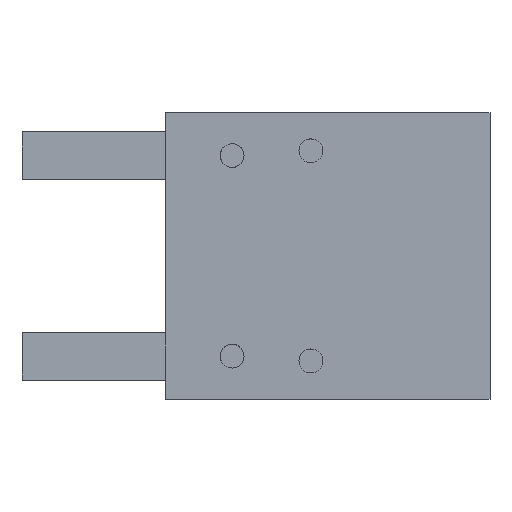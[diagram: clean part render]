
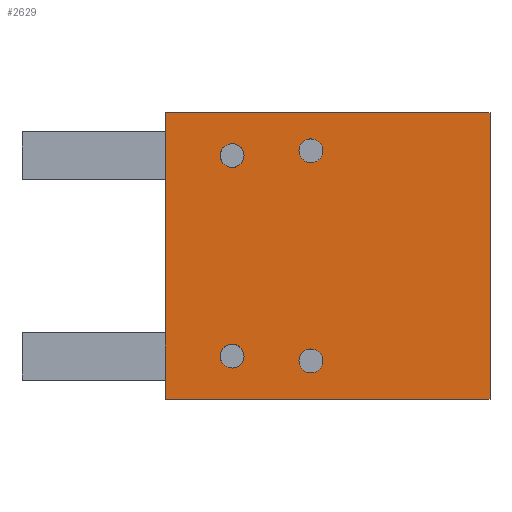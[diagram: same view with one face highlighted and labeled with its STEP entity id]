
A CAD part, top view. The second image highlights one B-rep face of the part: STEP entity #2629.
In plain terms, the highlighted planar face has unit normal (0, 0, 1).
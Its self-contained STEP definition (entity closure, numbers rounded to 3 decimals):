
#15 = AXIS2_PLACEMENT_3D ( 'NONE', #1223, #1216, #1202 ) ;
#17 = VERTEX_POINT ( 'NONE', #35 ) ;
#35 = CARTESIAN_POINT ( 'NONE',  ( -22.5, -21., 20. ) ) ;
#100 = ORIENTED_EDGE ( 'NONE', *, *, #1485, .F. ) ;
#105 = VECTOR ( 'NONE', #1352, 1000. ) ;
#133 = CARTESIAN_POINT ( 'NONE',  ( -20., -21., 20. ) ) ;
#175 = DIRECTION ( 'NONE',  ( 1., 0., 0. ) ) ;
#198 = DIRECTION ( 'NONE',  ( 0., 0., 1. ) ) ;
#206 = VECTOR ( 'NONE', #2286, 1000. ) ;
#213 = CARTESIAN_POINT ( 'NONE',  ( -3.5, 22., 20. ) ) ;
#242 = CIRCLE ( 'NONE', #3334, 2.5 ) ;
#265 = CARTESIAN_POINT ( 'NONE',  ( -34., 30., 20. ) ) ;
#358 = CARTESIAN_POINT ( 'NONE',  ( -6., -22., 20. ) ) ;
#408 = CARTESIAN_POINT ( 'NONE',  ( 34., 30., 20. ) ) ;
#434 = VERTEX_POINT ( 'NONE', #1083 ) ;
#468 = VERTEX_POINT ( 'NONE', #866 ) ;
#473 = CARTESIAN_POINT ( 'NONE',  ( -20., 21., 20. ) ) ;
#490 = CARTESIAN_POINT ( 'NONE',  ( -6., 22., 20. ) ) ;
#529 = DIRECTION ( 'NONE',  ( -1., 0., 0. ) ) ;
#574 = CARTESIAN_POINT ( 'NONE',  ( 34., 30., 20. ) ) ;
#605 = FACE_OUTER_BOUND ( 'NONE', #3739, .T. ) ;
#619 = VERTEX_POINT ( 'NONE', #358 ) ;
#666 = ORIENTED_EDGE ( 'NONE', *, *, #891, .F. ) ;
#866 = CARTESIAN_POINT ( 'NONE',  ( -34., -30., 20. ) ) ;
#891 = EDGE_CURVE ( 'NONE', #1519, #3458, #2263, .T. ) ;
#936 = EDGE_CURVE ( 'NONE', #1982, #619, #1193, .T. ) ;
#1065 = CARTESIAN_POINT ( 'NONE',  ( -1., -22., 20. ) ) ;
#1083 = CARTESIAN_POINT ( 'NONE',  ( 34., -30., 20. ) ) ;
#1167 = AXIS2_PLACEMENT_3D ( 'NONE', #3460, #3448, #3394 ) ;
#1192 = VERTEX_POINT ( 'NONE', #1876 ) ;
#1193 = CIRCLE ( 'NONE', #3291, 2.5 ) ;
#1202 = DIRECTION ( 'NONE',  ( 1., 0., 0. ) ) ;
#1216 = DIRECTION ( 'NONE',  ( 0., 0., 1. ) ) ;
#1223 = CARTESIAN_POINT ( 'NONE',  ( -3.5, 22., 20. ) ) ;
#1238 = ORIENTED_EDGE ( 'NONE', *, *, #3536, .F. ) ;
#1258 = EDGE_CURVE ( 'NONE', #1437, #2356, #2429, .T. ) ;
#1270 = EDGE_CURVE ( 'NONE', #434, #468, #1662, .T. ) ;
#1301 = CARTESIAN_POINT ( 'NONE',  ( 34., -30., 20. ) ) ;
#1349 = DIRECTION ( 'NONE',  ( 1., 0., 0. ) ) ;
#1352 = DIRECTION ( 'NONE',  ( -1., 0., 0. ) ) ;
#1371 = ORIENTED_EDGE ( 'NONE', *, *, #2701, .F. ) ;
#1381 = EDGE_CURVE ( 'NONE', #3214, #3647, #2079, .T. ) ;
#1384 = DIRECTION ( 'NONE',  ( 0., 0., 1. ) ) ;
#1390 = CIRCLE ( 'NONE', #1711, 2.5 ) ;
#1398 = CARTESIAN_POINT ( 'NONE',  ( -3.5, -22., 20. ) ) ;
#1401 = FACE_BOUND ( 'NONE', #1959, .T. ) ;
#1435 = EDGE_CURVE ( 'NONE', #2356, #1437, #1979, .T. ) ;
#1437 = VERTEX_POINT ( 'NONE', #490 ) ;
#1461 = ORIENTED_EDGE ( 'NONE', *, *, #1435, .F. ) ;
#1485 = EDGE_CURVE ( 'NONE', #17, #1192, #242, .T. ) ;
#1519 = VERTEX_POINT ( 'NONE', #1736 ) ;
#1530 = CARTESIAN_POINT ( 'NONE',  ( -34., 30., 20. ) ) ;
#1549 = CARTESIAN_POINT ( 'NONE',  ( 34., 30., 20. ) ) ;
#1634 = ORIENTED_EDGE ( 'NONE', *, *, #1270, .F. ) ;
#1662 = LINE ( 'NONE', #1301, #105 ) ;
#1670 = LINE ( 'NONE', #3156, #206 ) ;
#1711 = AXIS2_PLACEMENT_3D ( 'NONE', #2212, #2194, #2169 ) ;
#1720 = LINE ( 'NONE', #1530, #3276 ) ;
#1736 = CARTESIAN_POINT ( 'NONE',  ( -17.5, 21., 20. ) ) ;
#1777 = DIRECTION ( 'NONE',  ( 0., 1., 0. ) ) ;
#1787 = ORIENTED_EDGE ( 'NONE', *, *, #2550, .T. ) ;
#1850 = EDGE_LOOP ( 'NONE', ( #1461, #2985 ) ) ;
#1876 = CARTESIAN_POINT ( 'NONE',  ( -17.5, -21., 20. ) ) ;
#1887 = EDGE_LOOP ( 'NONE', ( #666, #3019 ) ) ;
#1927 = EDGE_LOOP ( 'NONE', ( #2604, #100 ) ) ;
#1959 = EDGE_LOOP ( 'NONE', ( #3048, #1238 ) ) ;
#1979 = CIRCLE ( 'NONE', #2751, 2.5 ) ;
#1982 = VERTEX_POINT ( 'NONE', #1065 ) ;
#2079 = LINE ( 'NONE', #574, #2753 ) ;
#2169 = DIRECTION ( 'NONE',  ( 1., 0., 0. ) ) ;
#2173 = FACE_BOUND ( 'NONE', #1927, .T. ) ;
#2194 = DIRECTION ( 'NONE',  ( 0., 0., 1. ) ) ;
#2212 = CARTESIAN_POINT ( 'NONE',  ( -20., -21., 20. ) ) ;
#2263 = CIRCLE ( 'NONE', #1167, 2.5 ) ;
#2271 = FACE_BOUND ( 'NONE', #1887, .T. ) ;
#2286 = DIRECTION ( 'NONE',  ( 0., 1., 0. ) ) ;
#2308 = PLANE ( 'NONE',  #2785 ) ;
#2356 = VERTEX_POINT ( 'NONE', #2538 ) ;
#2429 = CIRCLE ( 'NONE', #15, 2.5 ) ;
#2538 = CARTESIAN_POINT ( 'NONE',  ( -1., 22., 20. ) ) ;
#2550 = EDGE_CURVE ( 'NONE', #434, #3214, #1670, .T. ) ;
#2566 = CARTESIAN_POINT ( 'NONE',  ( -22.5, 21., 20. ) ) ;
#2604 = ORIENTED_EDGE ( 'NONE', *, *, #3472, .F. ) ;
#2629 = ADVANCED_FACE ( 'NONE', ( #2271, #2173, #3690, #1401, #605 ), #2308, .T. ) ;
#2661 = CIRCLE ( 'NONE', #3282, 2.5 ) ;
#2701 = EDGE_CURVE ( 'NONE', #468, #3647, #1720, .T. ) ;
#2722 = DIRECTION ( 'NONE',  ( 0., 0., 1. ) ) ;
#2751 = AXIS2_PLACEMENT_3D ( 'NONE', #213, #198, #175 ) ;
#2753 = VECTOR ( 'NONE', #529, 1000. ) ;
#2781 = ORIENTED_EDGE ( 'NONE', *, *, #1381, .T. ) ;
#2785 = AXIS2_PLACEMENT_3D ( 'NONE', #1549, #3381, #3265 ) ;
#2947 = EDGE_CURVE ( 'NONE', #3458, #1519, #3389, .T. ) ;
#2985 = ORIENTED_EDGE ( 'NONE', *, *, #1258, .F. ) ;
#3019 = ORIENTED_EDGE ( 'NONE', *, *, #2947, .F. ) ;
#3026 = DIRECTION ( 'NONE',  ( 1., 0., 0. ) ) ;
#3031 = DIRECTION ( 'NONE',  ( 0., 0., 1. ) ) ;
#3035 = CARTESIAN_POINT ( 'NONE',  ( -3.5, -22., 20. ) ) ;
#3048 = ORIENTED_EDGE ( 'NONE', *, *, #936, .F. ) ;
#3156 = CARTESIAN_POINT ( 'NONE',  ( 34., 30., 20. ) ) ;
#3172 = DIRECTION ( 'NONE',  ( 1., 0., 0. ) ) ;
#3214 = VERTEX_POINT ( 'NONE', #408 ) ;
#3228 = DIRECTION ( 'NONE',  ( 0., 0., 1. ) ) ;
#3265 = DIRECTION ( 'NONE',  ( 1., 0., 0. ) ) ;
#3276 = VECTOR ( 'NONE', #1777, 1000. ) ;
#3282 = AXIS2_PLACEMENT_3D ( 'NONE', #1398, #1384, #1349 ) ;
#3291 = AXIS2_PLACEMENT_3D ( 'NONE', #3035, #3031, #3026 ) ;
#3334 = AXIS2_PLACEMENT_3D ( 'NONE', #133, #3228, #3172 ) ;
#3381 = DIRECTION ( 'NONE',  ( 0., 0., 1. ) ) ;
#3389 = CIRCLE ( 'NONE', #3475, 2.5 ) ;
#3394 = DIRECTION ( 'NONE',  ( 1., 0., 0. ) ) ;
#3448 = DIRECTION ( 'NONE',  ( 0., 0., 1. ) ) ;
#3458 = VERTEX_POINT ( 'NONE', #2566 ) ;
#3460 = CARTESIAN_POINT ( 'NONE',  ( -20., 21., 20. ) ) ;
#3472 = EDGE_CURVE ( 'NONE', #1192, #17, #1390, .T. ) ;
#3475 = AXIS2_PLACEMENT_3D ( 'NONE', #473, #2722, #3579 ) ;
#3536 = EDGE_CURVE ( 'NONE', #619, #1982, #2661, .T. ) ;
#3579 = DIRECTION ( 'NONE',  ( 1., 0., 0. ) ) ;
#3647 = VERTEX_POINT ( 'NONE', #265 ) ;
#3690 = FACE_BOUND ( 'NONE', #1850, .T. ) ;
#3739 = EDGE_LOOP ( 'NONE', ( #1371, #1634, #1787, #2781 ) ) ;
